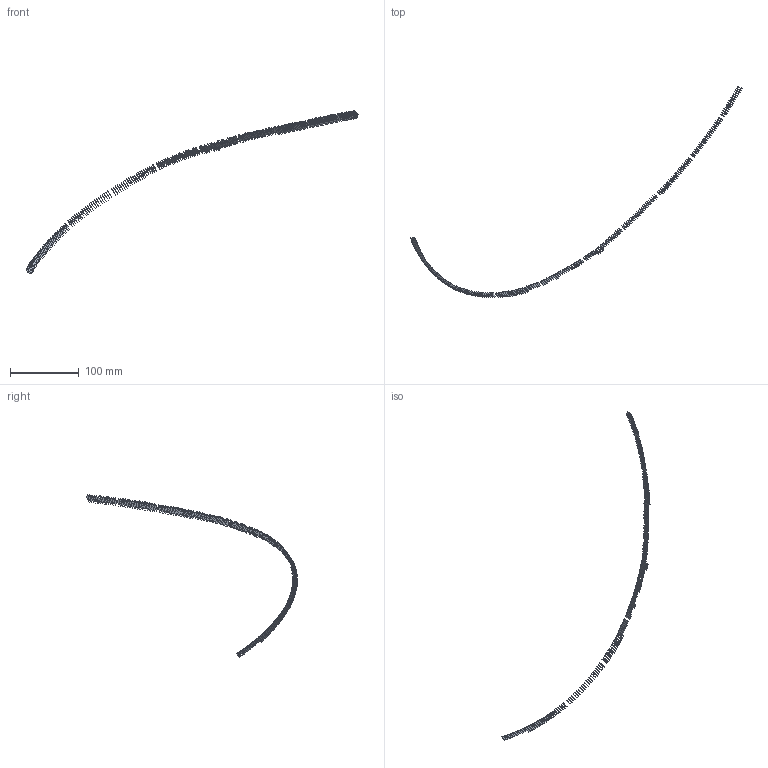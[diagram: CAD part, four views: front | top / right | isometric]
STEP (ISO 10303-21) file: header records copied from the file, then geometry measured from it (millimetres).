
FILE_DESCRIPTION(('FreeCAD Model'),'2;1');
FILE_NAME('Open CASCADE Shape Model','2022-05-22T07:50:33',('FreeCAD'),( 'FreeCAD'),'Open CASCADE STEP processor 7.5','FreeCAD','Unknown');
FILE_SCHEMA(('AUTOMOTIVE_DESIGN { 1 0 10303 214 1 1 1 1 }'));
Length unit declared in the file: millimetre
Products named in the file (214): Open CASCADE STEP translator 7.5 7; Open CASCADE STEP translator 7.5 7.1; Open CASCADE STEP translator 7.5 7.2; Open CASCADE STEP translator 7.5 7.3; Open CASCADE STEP translator 7.5 7.4; Open CASCADE STEP translator 7.5 7.5; Open CASCADE STEP translator 7.5 7.6; Open CASCADE STEP translator 7.5 7.7; Open CASCADE STEP translator 7.5 7.8; Open CASCADE STEP translator 7.5 7.9; Open CASCADE STEP translator 7.5 7.10; Open CASCADE STEP translator 7.5 7.11; Open CASCADE STEP translator 7.5 7.12; Open CASCADE STEP translator 7.5 7.13; Open CASCADE STEP translator 7.5 7.14; Open CASCADE STEP translator 7.5 7.15; Open CASCADE STEP translator 7.5 7.16; Open CASCADE STEP translator 7.5 7.17; Open CASCADE STEP translator 7.5 7.18; Open CASCADE STEP translator 7.5 7.19; Open CASCADE STEP translator 7.5 7.20; Open CASCADE STEP translator 7.5 7.21; Open CASCADE STEP translator 7.5 7.22; Open CASCADE STEP translator 7.5 7.23; Open CASCADE STEP translator 7.5 7.24; Open CASCADE STEP translator 7.5 7.25; Open CASCADE STEP translator 7.5 7.26; Open CASCADE STEP translator 7.5 7.27; Open CASCADE STEP translator 7.5 7.28; Open CASCADE STEP translator 7.5 7.29; Open CASCADE STEP translator 7.5 7.30; Open CASCADE STEP translator 7.5 7.31; Open CASCADE STEP translator 7.5 7.32; Open CASCADE STEP translator 7.5 7.33; Open CASCADE STEP translator 7.5 7.34; Open CASCADE STEP translator 7.5 7.35; Open CASCADE STEP translator 7.5 7.36; Open CASCADE STEP translator 7.5 7.37; Open CASCADE STEP translator 7.5 7.38; Open CASCADE STEP translator 7.5 7.39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
Assembly tree (213 placements, depth 2):
  Open CASCADE STEP translator 7.5 7
    Open CASCADE STEP translator 7.5 7.1
    Open CASCADE STEP translator 7.5 7.2
    Open CASCADE STEP translator 7.5 7.3
    Open CASCADE STEP translator 7.5 7.4
    Open CASCADE STEP translator 7.5 7.5
    Open CASCADE STEP translator 7.5 7.6
    Open CASCADE STEP translator 7.5 7.7
    Open CASCADE STEP translator 7.5 7.8
    Open CASCADE STEP translator 7.5 7.9
    Open CASCADE STEP translator 7.5 7.10
    Open CASCADE STEP translator 7.5 7.11
    Open CASCADE STEP translator 7.5 7.12
    Open CASCADE STEP translator 7.5 7.13
    Open CASCADE STEP translator 7.5 7.14
    Open CASCADE STEP translator 7.5 7.15
    Open CASCADE STEP translator 7.5 7.16
    Open CASCADE STEP translator 7.5 7.17
    Open CASCADE STEP translator 7.5 7.18
    Open CASCADE STEP translator 7.5 7.19
    Open CASCADE STEP translator 7.5 7.20
    Open CASCADE STEP translator 7.5 7.21
    Open CASCADE STEP translator 7.5 7.22
    Open CASCADE STEP translator 7.5 7.23
    Open CASCADE STEP translator 7.5 7.24
    Open CASCADE STEP translator 7.5 7.25
    Open CASCADE STEP translator 7.5 7.26
    Open CASCADE STEP translator 7.5 7.27
    Open CASCADE STEP translator 7.5 7.28
    Open CASCADE STEP translator 7.5 7.29
    Open CASCADE STEP translator 7.5 7.30
    Open CASCADE STEP translator 7.5 7.31
    Open CASCADE STEP translator 7.5 7.32
    Open CASCADE STEP translator 7.5 7.33
    Open CASCADE STEP translator 7.5 7.34
    Open CASCADE STEP translator 7.5 7.35
    Open CASCADE STEP translator 7.5 7.36
    Open CASCADE STEP translator 7.5 7.37
    Open CASCADE STEP translator 7.5 7.38
    Open CASCADE STEP translator 7.5 7.39
    Open CASCADE STEP translator 7.5 7.40
    Open CASCADE STEP translator 7.5 7.41
    Open CASCADE STEP translator 7.5 7.42
    Open CASCADE STEP translator 7.5 7.43
    Open CASCADE STEP translator 7.5 7.44
    Open CASCADE STEP translator 7.5 7.45
    Open CASCADE STEP translator 7.5 7.46
    Open CASCADE STEP translator 7.5 7.47
    Open CASCADE STEP translator 7.5 7.48
    Open CASCADE STEP translator 7.5 7.49
    Open CASCADE STEP translator 7.5 7.50
    Open CASCADE STEP translator 7.5 7.51
    Open CASCADE STEP translator 7.5 7.52
    Open CASCADE STEP translator 7.5 7.53
    Open CASCADE STEP translator 7.5 7.54
    Open CASCADE STEP translator 7.5 7.55
    Open CASCADE STEP translator 7.5 7.56
    Open CASCADE STEP translator 7.5 7.57
    Open CASCADE STEP translator 7.5 7.58
    Open CASCADE STEP translator 7.5 7.59
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Bounding box: 482.91 x 306.93 x 238.2 mm (x, y, z)
Surface area: 7558.9 mm2 (no closed solid volume)
Topology: 0 solids, 213 shells, 213 faces, 9136 edges, 9136 vertices
Faces by surface type: bspline 213
Entity records: 124748 total; most frequent: CARTESIAN_POINT 46746, B_SPLINE_CURVE_WITH_KNOTS 18272, ORIENTED_EDGE 9136, EDGE_CURVE 9136, VERTEX_POINT 9136, SURFACE_CURVE 9136, PCURVE 9136, DEFINITIONAL_REPRESENTATION 9136
